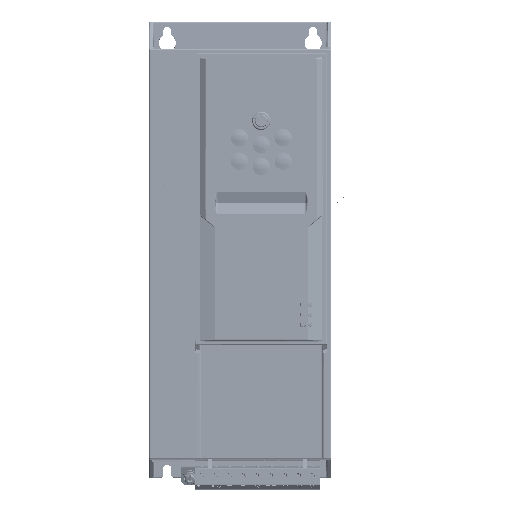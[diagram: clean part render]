
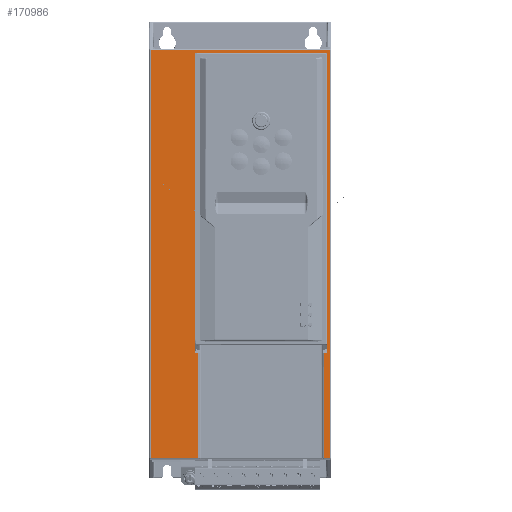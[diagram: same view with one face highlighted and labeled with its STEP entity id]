
A CAD part, top view. The second image highlights one B-rep face of the part: STEP entity #170986.
In plain terms, the highlighted planar face has unit normal (0, 0, 1).
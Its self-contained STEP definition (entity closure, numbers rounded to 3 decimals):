
#26896=DIRECTION('',(-1.,0.,0.));
#26897=VECTOR('',#26896,98.4);
#26898=CARTESIAN_POINT('',(37.7,1.7,0.));
#26899=LINE('',#26898,#26897);
#26903=DIRECTION('',(0.,1.,0.));
#26904=VECTOR('',#26903,223.4);
#26905=CARTESIAN_POINT('',(37.7,-221.7,0.));
#26906=LINE('',#26905,#26904);
#26910=DIRECTION('',(1.,0.,0.));
#26911=VECTOR('',#26910,3.265);
#26912=CARTESIAN_POINT('',(34.435,-221.7,0.));
#26913=LINE('',#26912,#26911);
#26917=DIRECTION('',(0.,-1.,0.));
#26918=VECTOR('',#26917,57.589);
#26919=CARTESIAN_POINT('',(34.435,-164.111,0.));
#26920=LINE('',#26919,#26918);
#26924=DIRECTION('',(-1.,0.,0.));
#26925=VECTOR('',#26924,72.2);
#26926=CARTESIAN_POINT('',(36.1,0.1,0.));
#26927=LINE('',#26926,#26925);
#26931=DIRECTION('',(0.,1.,0.));
#26932=VECTOR('',#26931,57.589);
#26933=CARTESIAN_POINT('',(-34.435,-221.7,0.));
#26934=LINE('',#26933,#26932);
#26938=DIRECTION('',(1.,0.,0.));
#26939=VECTOR('',#26938,26.265);
#26940=CARTESIAN_POINT('',(-60.7,-221.7,0.));
#26941=LINE('',#26940,#26939);
#26945=DIRECTION('',(0.,-1.,0.));
#26946=VECTOR('',#26945,223.4);
#26947=CARTESIAN_POINT('',(-60.7,1.7,0.));
#26948=LINE('',#26947,#26946);
#39332=CARTESIAN_POINT('',(-34.435,-164.111,0.));
#39341=DIRECTION('',(-1.,0.,0.));
#39342=VECTOR('',#39341,1.665);
#39343=CARTESIAN_POINT('',(-34.435,-164.111,0.));
#39344=LINE('',#39343,#39342);
#39355=DIRECTION('',(-1.,0.,0.));
#39356=VECTOR('',#39355,1.665);
#39357=CARTESIAN_POINT('',(36.1,-164.111,0.));
#39358=LINE('',#39357,#39356);
#39366=CARTESIAN_POINT('',(34.435,-164.111,0.));
#127326=DIRECTION('',(0.,1.,0.));
#127327=VECTOR('',#127326,164.211);
#127328=CARTESIAN_POINT('',(-36.1,-164.111,0.));
#127329=LINE('',#127328,#127327);
#127647=DIRECTION('',(0.,-1.,0.));
#127648=VECTOR('',#127647,164.211);
#127649=CARTESIAN_POINT('',(36.1,0.1,0.));
#127650=LINE('',#127649,#127648);
#140012=VERTEX_POINT('',#39332);
#140024=VERTEX_POINT('',#39366);
#140041=CARTESIAN_POINT('',(37.7,1.7,0.));
#140042=CARTESIAN_POINT('',(-60.7,1.7,0.));
#140043=VERTEX_POINT('',#140041);
#140044=VERTEX_POINT('',#140042);
#140049=CARTESIAN_POINT('',(-60.7,-221.7,0.));
#140050=VERTEX_POINT('',#140049);
#140055=CARTESIAN_POINT('',(-34.435,-221.7,0.));
#140056=VERTEX_POINT('',#140055);
#140081=CARTESIAN_POINT('',(34.435,-221.7,0.));
#140082=VERTEX_POINT('',#140081);
#140083=CARTESIAN_POINT('',(37.7,-221.7,0.));
#140084=VERTEX_POINT('',#140083);
#140103=CARTESIAN_POINT('',(36.1,0.1,0.));
#140104=CARTESIAN_POINT('',(-36.1,0.1,0.));
#140105=VERTEX_POINT('',#140103);
#140106=VERTEX_POINT('',#140104);
#140111=CARTESIAN_POINT('',(36.1,-164.111,0.));
#140112=VERTEX_POINT('',#140111);
#140145=CARTESIAN_POINT('',(-36.1,-164.111,0.));
#140146=VERTEX_POINT('',#140145);
#170956=CARTESIAN_POINT('',(0.,0.,0.));
#170957=DIRECTION('',(0.,0.,1.));
#170958=DIRECTION('',(1.,0.,0.));
#170959=AXIS2_PLACEMENT_3D('',#170956,#170957,#170958);
#170960=PLANE('',#170959);
#170962=ORIENTED_EDGE('',*,*,#170961,.F.);
#170963=ORIENTED_EDGE('',*,*,#169452,.F.);
#170965=ORIENTED_EDGE('',*,*,#170964,.F.);
#170967=ORIENTED_EDGE('',*,*,#170966,.F.);
#170969=ORIENTED_EDGE('',*,*,#170968,.F.);
#170971=ORIENTED_EDGE('',*,*,#170970,.F.);
#170973=ORIENTED_EDGE('',*,*,#170972,.T.);
#170975=ORIENTED_EDGE('',*,*,#170974,.F.);
#170977=ORIENTED_EDGE('',*,*,#170976,.F.);
#170979=ORIENTED_EDGE('',*,*,#170978,.F.);
#170981=ORIENTED_EDGE('',*,*,#170980,.F.);
#170983=ORIENTED_EDGE('',*,*,#170982,.F.);
#170984=EDGE_LOOP('',(#170962,#170963,#170965,#170967,#170969,#170971,#170973,
#170975,#170977,#170979,#170981,#170983));
#170985=FACE_OUTER_BOUND('',#170984,.F.);
#170986=ADVANCED_FACE('',(#170985),#170960,.T.);
#169452=EDGE_CURVE('',#140084,#140043,#26906,.T.);
#170961=EDGE_CURVE('',#140043,#140044,#26899,.T.);
#170964=EDGE_CURVE('',#140082,#140084,#26913,.T.);
#170966=EDGE_CURVE('',#140024,#140082,#26920,.T.);
#170968=EDGE_CURVE('',#140112,#140024,#39358,.T.);
#170970=EDGE_CURVE('',#140105,#140112,#127650,.T.);
#170972=EDGE_CURVE('',#140105,#140106,#26927,.T.);
#170974=EDGE_CURVE('',#140146,#140106,#127329,.T.);
#170976=EDGE_CURVE('',#140012,#140146,#39344,.T.);
#170978=EDGE_CURVE('',#140056,#140012,#26934,.T.);
#170980=EDGE_CURVE('',#140050,#140056,#26941,.T.);
#170982=EDGE_CURVE('',#140044,#140050,#26948,.T.);
